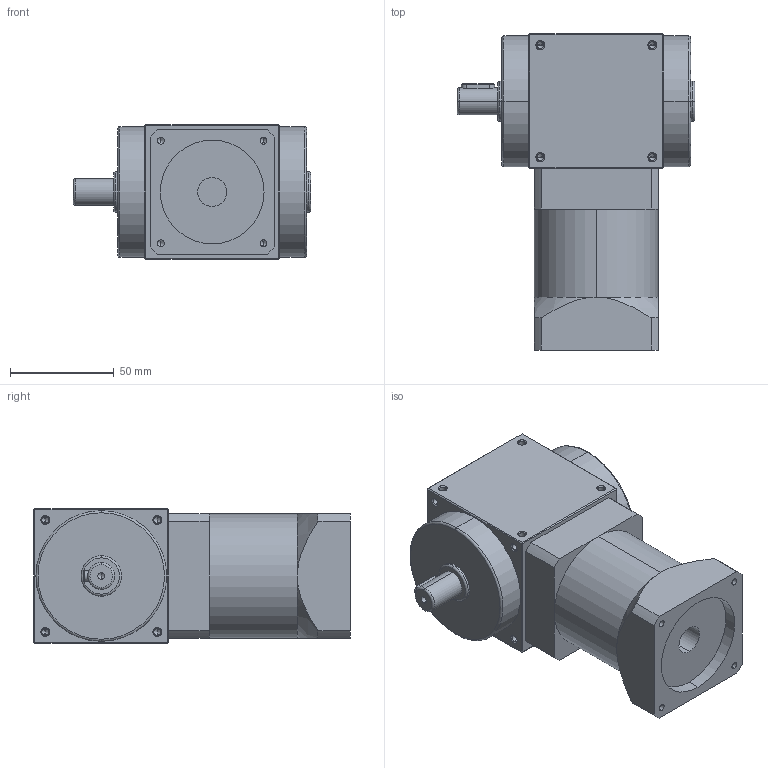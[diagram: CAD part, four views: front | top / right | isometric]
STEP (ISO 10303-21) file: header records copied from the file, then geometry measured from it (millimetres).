
FILE_DESCRIPTION (( 'STEP AP214' ), '1' );
FILE_NAME ('AT065-FL1-L1-400W.STEP', '2019-05-08T05:34:24', ( 'User' ), ( 'Far123' ), 'SwSTEP 2.0', 'SolidWorks 2015', '' );
FILE_SCHEMA (( 'AUTOMOTIVE_DESIGN' ));
Length unit declared in the file: millimetre
Products named in the file (1): AT065-FL1-L1-400W
Bounding box: 114.5 x 152.5 x 65 mm (x, y, z)
Volume: 619970 mm3; surface area: 54764.4 mm2
Topology: 1 solids, 2 shells, 277 faces, 684 edges, 371 vertices
Faces by surface type: cylinder 118, cone 96, plane 53, torus 10
Entity records: 8882 total; most frequent: CARTESIAN_POINT 1803, DIRECTION 1288, ORIENTED_EDGE 1268, EDGE_CURVE 634, AXIS2_PLACEMENT_3D 498, VERTEX_POINT 371, EDGE_LOOP 311, VECTOR 292
